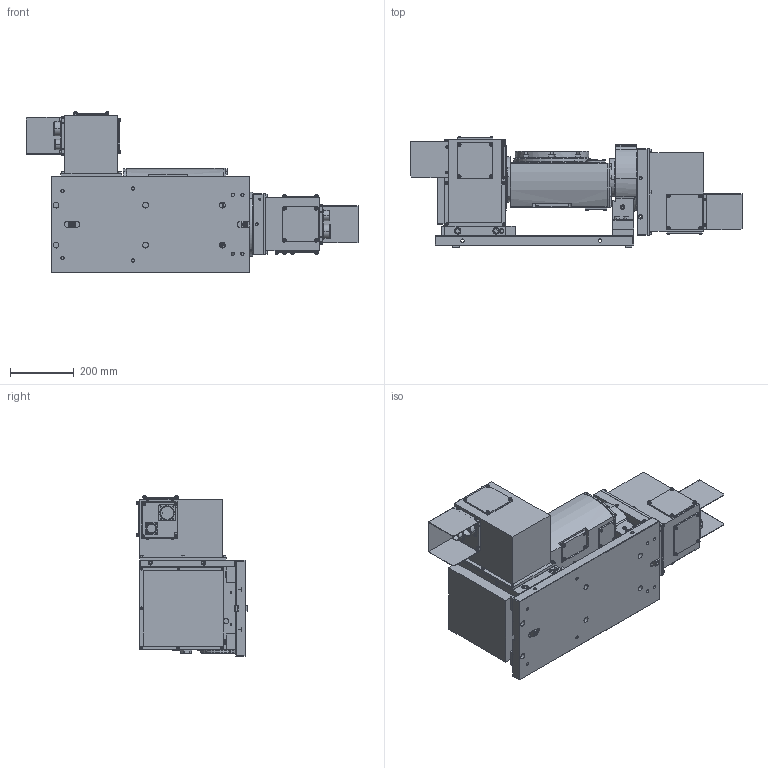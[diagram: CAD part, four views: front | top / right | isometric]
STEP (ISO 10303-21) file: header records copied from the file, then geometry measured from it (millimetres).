
FILE_DESCRIPTION (( 'STEP AP203' ), '1' );
FILE_NAME ('15091558-MDAT232AS.STEP', '2020-12-05T05:30:41', ( '' ), ( '' ), 'SwSTEP 2.0', 'SolidWorks 2019', '' );
FILE_SCHEMA (( 'CONFIG_CONTROL_DESIGN' ));
Products named in the file (1): 15091558-MDAT232AS
Bounding box: 1038 x 347.7 x 502.3 mm (x, y, z)
Surface area: 2469219.1 mm2 (no closed solid volume)
Topology: 0 solids, 318 shells, 1951 faces, 7329 edges, 5597 vertices
Faces by surface type: plane 1004, cylinder 621, cone 313, torus 7, bspline 6
Entity records: 82568 total; most frequent: CARTESIAN_POINT 18746, DIRECTION 14084, ORIENTED_EDGE 10474, EDGE_CURVE 7329, VERTEX_POINT 5597, AXIS2_PLACEMENT_3D 4947, LINE 4190, VECTOR 4190
